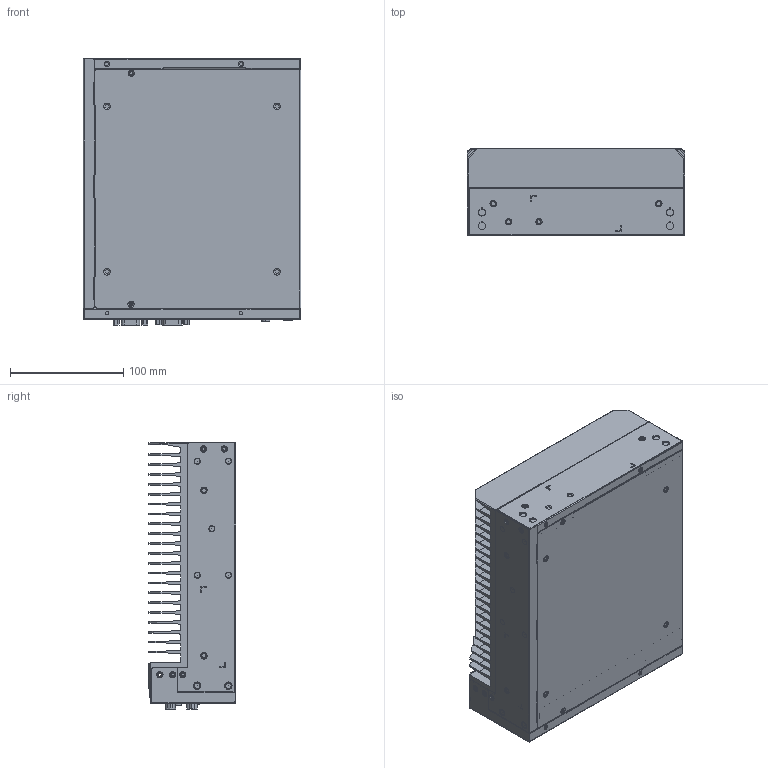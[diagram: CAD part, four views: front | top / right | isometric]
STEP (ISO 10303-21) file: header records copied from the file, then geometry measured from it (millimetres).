
FILE_DESCRIPTION((''),'2;1');
FILE_NAME('0000434628_ASM','2021-08-11T11:29:02',('11000804'),(''),'CREO PARAMETRIC BY PTC INC, 2019030','CREO PARAMETRIC BY PTC INC, 2019030','');
FILE_SCHEMA(('AUTOMOTIVE_DESIGN { 1 0 10303 214 1 1 1 1 }'));
Products named in the file (27): J5_1000; J20_1000; J14_1000; J7_1000; J15_1000; J19_1000; J22_1000; J17_1000; NONE-104549_1_2; J6_1000; J2_1000; J21_1000; J3_1000; J10_1000; NONE-161109_1_2; J4_1000; J11_1000; NONE-176540_1_2; J9_1000; J1_1000; J23_1000; J8_1000; J13_1000; MIC-770V1_1_ASM; 0000434630; 0000434634; 0000434628_ASM
Assembly tree (26 placements, depth 3):
  0000434628_ASM
    MIC-770V1_1_ASM
      J5_1000
      J20_1000
      J14_1000
      J7_1000
      J15_1000
      J19_1000
      J22_1000
      J17_1000
      NONE-104549_1_2
      J6_1000
      J2_1000
      J21_1000
      J3_1000
      J10_1000
      NONE-161109_1_2
      J4_1000
      J11_1000
      NONE-176540_1_2
      J9_1000
      J1_1000
      J23_1000
      J8_1000
      J13_1000
    0000434630
    0000434634
Bounding box: 192 x 77 x 235.17 mm (x, y, z)
Volume: 2095991.4 mm3; surface area: 726811.9 mm2
Topology: 25 solids, 32 shells, 7239 faces, 19772 edges, 12810 vertices
Faces by surface type: plane 5398, cylinder 1501, cone 98, torus 84, sphere 60, extrusion 58, bspline 40
Entity records: 292244 total; most frequent: CARTESIAN_POINT 45800, ORIENTED_EDGE 39284, DIRECTION 37059, PRESENTATION_STYLE_ASSIGNMENT 19667, STYLED_ITEM 19667, CURVE_STYLE 19642, EDGE_CURVE 19642, VECTOR 15855
